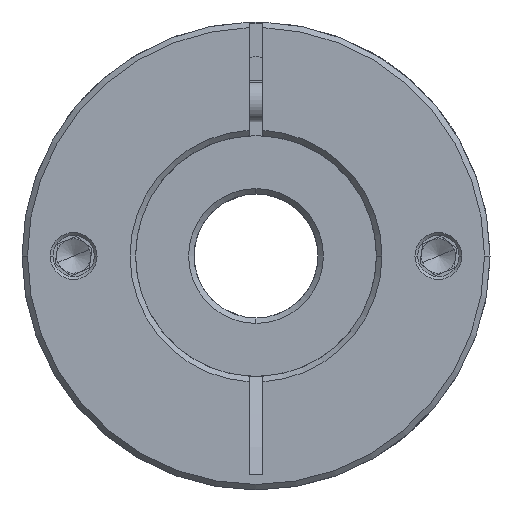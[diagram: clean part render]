
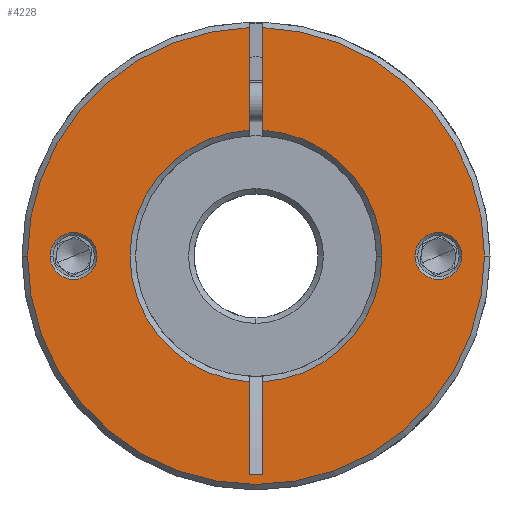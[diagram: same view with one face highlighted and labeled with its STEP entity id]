
A CAD part, front view. The second image highlights one B-rep face of the part: STEP entity #4228.
In plain terms, the highlighted planar face has unit normal (0, -1, 0).
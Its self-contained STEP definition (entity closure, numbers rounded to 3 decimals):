
#62 = ORIENTED_EDGE ( 'NONE', *, *, #790, .T. ) ;
#76 = VERTEX_POINT ( 'NONE', #7307 ) ;
#104 = ORIENTED_EDGE ( 'NONE', *, *, #1201, .T. ) ;
#311 = CIRCLE ( 'NONE', #8884, 3.4 ) ;
#324 = ORIENTED_EDGE ( 'NONE', *, *, #9662, .T. ) ;
#419 = VECTOR ( 'NONE', #10808, 1000. ) ;
#720 = DIRECTION ( 'NONE',  ( 0., -1., 0. ) ) ;
#790 = EDGE_CURVE ( 'NONE', #12821, #7070, #11227, .T. ) ;
#926 = DIRECTION ( 'NONE',  ( 1., 0., 0. ) ) ;
#942 = EDGE_CURVE ( 'NONE', #12722, #76, #11561, .T. ) ;
#949 = AXIS2_PLACEMENT_3D ( 'NONE', #12080, #8941, #13063 ) ;
#1066 = LINE ( 'NONE', #8668, #419 ) ;
#1127 = AXIS2_PLACEMENT_3D ( 'NONE', #13298, #720, #11241 ) ;
#1164 = AXIS2_PLACEMENT_3D ( 'NONE', #2885, #5014, #926 ) ;
#1201 = EDGE_CURVE ( 'NONE', #76, #12821, #7806, .T. ) ;
#1239 = EDGE_CURVE ( 'NONE', #4781, #5590, #1066, .T. ) ;
#1341 = AXIS2_PLACEMENT_3D ( 'NONE', #10182, #10276, #9296 ) ;
#1751 = CARTESIAN_POINT ( 'NONE',  ( -3.735, -47.045, 68. ) ) ;
#1824 = DIRECTION ( 'NONE',  ( 1., 0., 0. ) ) ;
#1994 = CARTESIAN_POINT ( 'NONE',  ( 27.165, -47.045, 68. ) ) ;
#2094 = CARTESIAN_POINT ( 'NONE',  ( -1.735, -47.045, 101.185 ) ) ;
#2309 = DIRECTION ( 'NONE',  ( -1., 0., 0. ) ) ;
#2445 = DIRECTION ( 'NONE',  ( 1., 0., 0. ) ) ;
#2456 = EDGE_LOOP ( 'NONE', ( #11637, #11832 ) ) ;
#2487 = DIRECTION ( 'NONE',  ( 0., 1., 0. ) ) ;
#2563 = VERTEX_POINT ( 'NONE', #11802 ) ;
#2735 = ORIENTED_EDGE ( 'NONE', *, *, #5929, .F. ) ;
#2885 = CARTESIAN_POINT ( 'NONE',  ( -2.735, -47.045, 68. ) ) ;
#2948 = VERTEX_POINT ( 'NONE', #1994 ) ;
#2993 = CARTESIAN_POINT ( 'NONE',  ( -25.835, -47.045, 68. ) ) ;
#3006 = DIRECTION ( 'NONE',  ( 0., 1., 0. ) ) ;
#3019 = CARTESIAN_POINT ( 'NONE',  ( 23.765, -47.045, 68. ) ) ;
#3102 = CARTESIAN_POINT ( 'NONE',  ( -32.635, -47.045, 68. ) ) ;
#3252 = EDGE_CURVE ( 'NONE', #2948, #7415, #311, .T. ) ;
#3256 = ORIENTED_EDGE ( 'NONE', *, *, #13353, .T. ) ;
#3273 = CIRCLE ( 'NONE', #7010, 18.3 ) ;
#3276 = EDGE_CURVE ( 'NONE', #12722, #4844, #6995, .T. ) ;
#3392 = CARTESIAN_POINT ( 'NONE',  ( -3.735, -47.045, 36.279 ) ) ;
#3896 = FACE_OUTER_BOUND ( 'NONE', #13257, .T. ) ;
#3910 = DIRECTION ( 'NONE',  ( 0., 0., -1. ) ) ;
#3920 = CARTESIAN_POINT ( 'NONE',  ( -1.735, -47.045, 36.279 ) ) ;
#4165 = CARTESIAN_POINT ( 'NONE',  ( -3.735, -47.045, 49.727 ) ) ;
#4228 = ADVANCED_FACE ( 'NONE', ( #10228, #8493, #3896 ), #7097, .T. ) ;
#4248 = CIRCLE ( 'NONE', #1341, 18.3 ) ;
#4781 = VERTEX_POINT ( 'NONE', #10237 ) ;
#4844 = VERTEX_POINT ( 'NONE', #12716 ) ;
#5008 = ORIENTED_EDGE ( 'NONE', *, *, #1239, .T. ) ;
#5014 = DIRECTION ( 'NONE',  ( 0., -1., 0. ) ) ;
#5492 = DIRECTION ( 'NONE',  ( 1., 0., 0. ) ) ;
#5496 = AXIS2_PLACEMENT_3D ( 'NONE', #11597, #11692, #5492 ) ;
#5590 = VERTEX_POINT ( 'NONE', #3920 ) ;
#5776 = ORIENTED_EDGE ( 'NONE', *, *, #13102, .T. ) ;
#5928 = EDGE_LOOP ( 'NONE', ( #6174, #3256 ) ) ;
#5929 = EDGE_CURVE ( 'NONE', #11028, #6646, #12444, .T. ) ;
#6001 = EDGE_CURVE ( 'NONE', #7070, #11522, #9850, .T. ) ;
#6003 = CARTESIAN_POINT ( 'NONE',  ( 23.765, -47.045, 68. ) ) ;
#6123 = DIRECTION ( 'NONE',  ( 0., 1., 0. ) ) ;
#6174 = ORIENTED_EDGE ( 'NONE', *, *, #8530, .T. ) ;
#6507 = EDGE_CURVE ( 'NONE', #5590, #6646, #10527, .T. ) ;
#6646 = VERTEX_POINT ( 'NONE', #9016 ) ;
#6995 = LINE ( 'NONE', #11125, #7827 ) ;
#7010 = AXIS2_PLACEMENT_3D ( 'NONE', #10782, #2487, #2445 ) ;
#7059 = DIRECTION ( 'NONE',  ( 1., 0., 0. ) ) ;
#7060 = CIRCLE ( 'NONE', #10916, 18.3 ) ;
#7070 = VERTEX_POINT ( 'NONE', #2094 ) ;
#7097 = PLANE ( 'NONE',  #1164 ) ;
#7100 = ORIENTED_EDGE ( 'NONE', *, *, #6001, .T. ) ;
#7104 = VERTEX_POINT ( 'NONE', #2993 ) ;
#7307 = CARTESIAN_POINT ( 'NONE',  ( -35.935, -47.045, 68. ) ) ;
#7415 = VERTEX_POINT ( 'NONE', #12839 ) ;
#7475 = EDGE_CURVE ( 'NONE', #2563, #4781, #7060, .T. ) ;
#7707 = CARTESIAN_POINT ( 'NONE',  ( -2.735, -47.045, 68. ) ) ;
#7739 = ORIENTED_EDGE ( 'NONE', *, *, #7475, .T. ) ;
#7760 = VECTOR ( 'NONE', #2309, 1000. ) ;
#7806 = CIRCLE ( 'NONE', #12128, 33.2 ) ;
#7827 = VECTOR ( 'NONE', #8190, 1000. ) ;
#7976 = ORIENTED_EDGE ( 'NONE', *, *, #942, .T. ) ;
#8030 = CIRCLE ( 'NONE', #12318, 3.4 ) ;
#8152 = CARTESIAN_POINT ( 'NONE',  ( -2.735, -47.045, 68. ) ) ;
#8190 = DIRECTION ( 'NONE',  ( 0., 0., -1. ) ) ;
#8493 = FACE_BOUND ( 'NONE', #5928, .T. ) ;
#8524 = ORIENTED_EDGE ( 'NONE', *, *, #3276, .F. ) ;
#8530 = EDGE_CURVE ( 'NONE', #7104, #10177, #12871, .T. ) ;
#8653 = EDGE_CURVE ( 'NONE', #7415, #2948, #9329, .T. ) ;
#8668 = CARTESIAN_POINT ( 'NONE',  ( -1.735, -47.045, 68. ) ) ;
#8780 = DIRECTION ( 'NONE',  ( 1., 0., 0. ) ) ;
#8884 = AXIS2_PLACEMENT_3D ( 'NONE', #3019, #13320, #1824 ) ;
#8941 = DIRECTION ( 'NONE',  ( 0., -1., 0. ) ) ;
#9016 = CARTESIAN_POINT ( 'NONE',  ( -3.735, -47.045, 36.279 ) ) ;
#9296 = DIRECTION ( 'NONE',  ( 1., 0., 0. ) ) ;
#9329 = CIRCLE ( 'NONE', #11777, 3.4 ) ;
#9662 = EDGE_CURVE ( 'NONE', #11028, #4844, #4248, .T. ) ;
#9711 = DIRECTION ( 'NONE',  ( 0., -1., 0. ) ) ;
#9850 = LINE ( 'NONE', #11184, #10019 ) ;
#10019 = VECTOR ( 'NONE', #12293, 1000. ) ;
#10177 = VERTEX_POINT ( 'NONE', #3102 ) ;
#10182 = CARTESIAN_POINT ( 'NONE',  ( -2.735, -47.045, 68. ) ) ;
#10228 = FACE_BOUND ( 'NONE', #2456, .T. ) ;
#10237 = CARTESIAN_POINT ( 'NONE',  ( -1.735, -47.045, 49.727 ) ) ;
#10276 = DIRECTION ( 'NONE',  ( 0., 1., 0. ) ) ;
#10527 = LINE ( 'NONE', #3392, #7760 ) ;
#10782 = CARTESIAN_POINT ( 'NONE',  ( -2.735, -47.045, 68. ) ) ;
#10808 = DIRECTION ( 'NONE',  ( 0., 0., -1. ) ) ;
#10887 = CARTESIAN_POINT ( 'NONE',  ( -3.735, -47.045, 101.185 ) ) ;
#10916 = AXIS2_PLACEMENT_3D ( 'NONE', #8152, #11133, #7059 ) ;
#11028 = VERTEX_POINT ( 'NONE', #4165 ) ;
#11125 = CARTESIAN_POINT ( 'NONE',  ( -3.735, -47.045, 68. ) ) ;
#11133 = DIRECTION ( 'NONE',  ( 0., 1., 0. ) ) ;
#11184 = CARTESIAN_POINT ( 'NONE',  ( -1.735, -47.045, 68. ) ) ;
#11227 = CIRCLE ( 'NONE', #949, 33.2 ) ;
#11241 = DIRECTION ( 'NONE',  ( 1., 0., 0. ) ) ;
#11246 = CARTESIAN_POINT ( 'NONE',  ( 30.465, -47.045, 68. ) ) ;
#11522 = VERTEX_POINT ( 'NONE', #13322 ) ;
#11561 = CIRCLE ( 'NONE', #1127, 33.2 ) ;
#11597 = CARTESIAN_POINT ( 'NONE',  ( -29.235, -47.045, 68. ) ) ;
#11637 = ORIENTED_EDGE ( 'NONE', *, *, #3252, .T. ) ;
#11692 = DIRECTION ( 'NONE',  ( 0., 1., 0. ) ) ;
#11700 = ORIENTED_EDGE ( 'NONE', *, *, #6507, .T. ) ;
#11777 = AXIS2_PLACEMENT_3D ( 'NONE', #6003, #3006, #12266 ) ;
#11802 = CARTESIAN_POINT ( 'NONE',  ( 15.565, -47.045, 68. ) ) ;
#11832 = ORIENTED_EDGE ( 'NONE', *, *, #8653, .T. ) ;
#12080 = CARTESIAN_POINT ( 'NONE',  ( -2.735, -47.045, 68. ) ) ;
#12128 = AXIS2_PLACEMENT_3D ( 'NONE', #7707, #9711, #8780 ) ;
#12266 = DIRECTION ( 'NONE',  ( 1., 0., 0. ) ) ;
#12293 = DIRECTION ( 'NONE',  ( 0., 0., -1. ) ) ;
#12318 = AXIS2_PLACEMENT_3D ( 'NONE', #13289, #6123, #13245 ) ;
#12444 = LINE ( 'NONE', #1751, #12596 ) ;
#12596 = VECTOR ( 'NONE', #3910, 1000. ) ;
#12716 = CARTESIAN_POINT ( 'NONE',  ( -3.735, -47.045, 86.273 ) ) ;
#12722 = VERTEX_POINT ( 'NONE', #10887 ) ;
#12821 = VERTEX_POINT ( 'NONE', #11246 ) ;
#12839 = CARTESIAN_POINT ( 'NONE',  ( 20.365, -47.045, 68. ) ) ;
#12871 = CIRCLE ( 'NONE', #5496, 3.4 ) ;
#13063 = DIRECTION ( 'NONE',  ( 1., 0., 0. ) ) ;
#13102 = EDGE_CURVE ( 'NONE', #11522, #2563, #3273, .T. ) ;
#13245 = DIRECTION ( 'NONE',  ( 1., 0., 0. ) ) ;
#13257 = EDGE_LOOP ( 'NONE', ( #8524, #7976, #104, #62, #7100, #5776, #7739, #5008, #11700, #2735, #324 ) ) ;
#13289 = CARTESIAN_POINT ( 'NONE',  ( -29.235, -47.045, 68. ) ) ;
#13298 = CARTESIAN_POINT ( 'NONE',  ( -2.735, -47.045, 68. ) ) ;
#13320 = DIRECTION ( 'NONE',  ( 0., 1., 0. ) ) ;
#13322 = CARTESIAN_POINT ( 'NONE',  ( -1.735, -47.045, 86.273 ) ) ;
#13353 = EDGE_CURVE ( 'NONE', #10177, #7104, #8030, .T. ) ;
